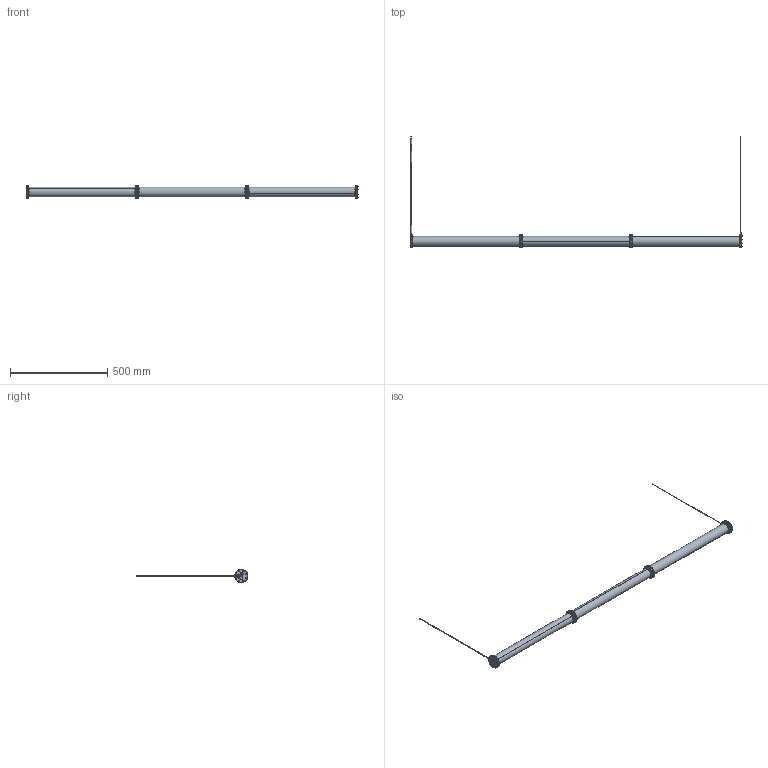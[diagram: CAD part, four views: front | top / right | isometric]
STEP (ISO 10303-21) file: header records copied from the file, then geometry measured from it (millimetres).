
FILE_DESCRIPTION (( 'STEP AP203' ), '1' );
FILE_NAME ('FBN05.LS03.AF01.R10 Render.STEP', '2025-05-05T14:44:41', ( '' ), ( '' ), 'SwSTEP 2.0', 'SolidWorks 2024', '' );
FILE_SCHEMA (( 'CONFIG_CONTROL_DESIGN' ));
Length unit declared in the file: millimetre
Products named in the file (15): FBN05.LS03.C009.R10; FBN05.LS03.C004.R10; FBN05.LS03.C015.R10; FBN05.LS03.C007.R10; FBN05.LS03.C011.R10; FBN05.LS03.C098.R00; FBN05.LS03.C006.R10; FBN05.LS03.C010.R10; FBN05.LS03.C002.R10; FBN05.LS03.C014.R10; FBN05.LS03.C001.R10; FBN05.LS03.AF01.R10 Render; FBN05.LS03.C003.R10; FBN05.LS03.C012.R10; FBN05.LS03.C099.R10
Assembly tree (95 placements, depth 2):
  FBN05.LS03.AF01.R10 Render
    FBN05.LS03.C015.R10  x3
    FBN05.LS03.C009.R10  x4
    FBN05.LS03.C010.R10  x2
    FBN05.LS03.C014.R10  x64
    FBN05.LS03.C001.R10  x2
    FBN05.LS03.C011.R10
    FBN05.LS03.C002.R10
    FBN05.LS03.C007.R10  x6
    FBN05.LS03.C003.R10  x2
    FBN05.LS03.C006.R10  x6
    FBN05.LS03.C012.R10
    FBN05.LS03.C098.R00
    FBN05.LS03.C099.R10
    FBN05.LS03.C004.R10
Bounding box: 1705 x 574.07 x 67.94 mm (x, y, z)
Volume: 863276.2 mm3; surface area: 825419 mm2
Topology: 95 solids, 95 shells, 2279 faces, 5429 edges, 3401 vertices
Faces by surface type: cylinder 1080, plane 615, cone 308, sphere 258, torus 12, bspline 6
Entity records: 18959 total; most frequent: CARTESIAN_POINT 3425, DIRECTION 2794, ORIENTED_EDGE 2208, AXIS2_PLACEMENT_3D 1164, EDGE_CURVE 1104, VERTEX_POINT 717, CIRCLE 630, EDGE_LOOP 613
